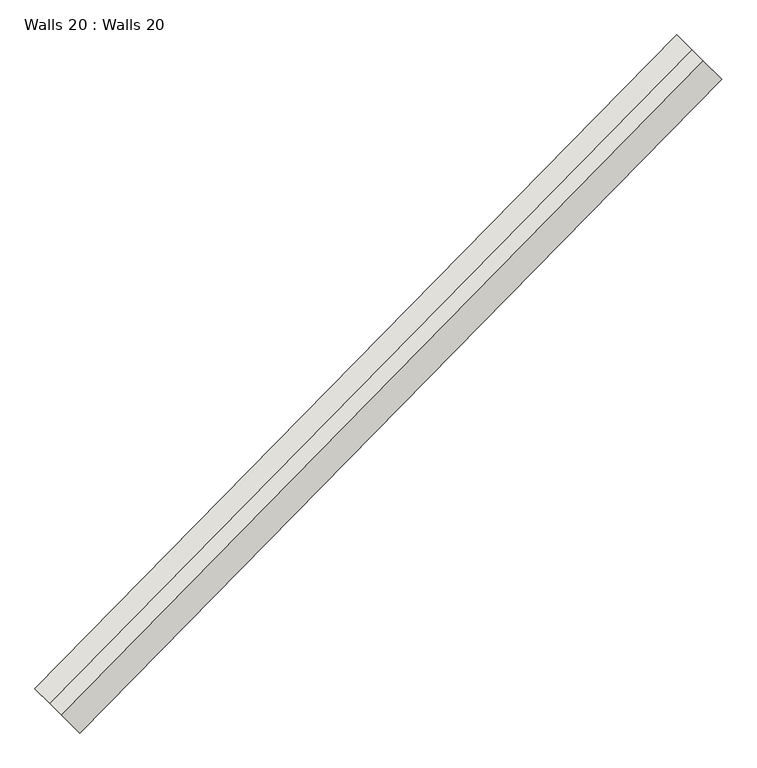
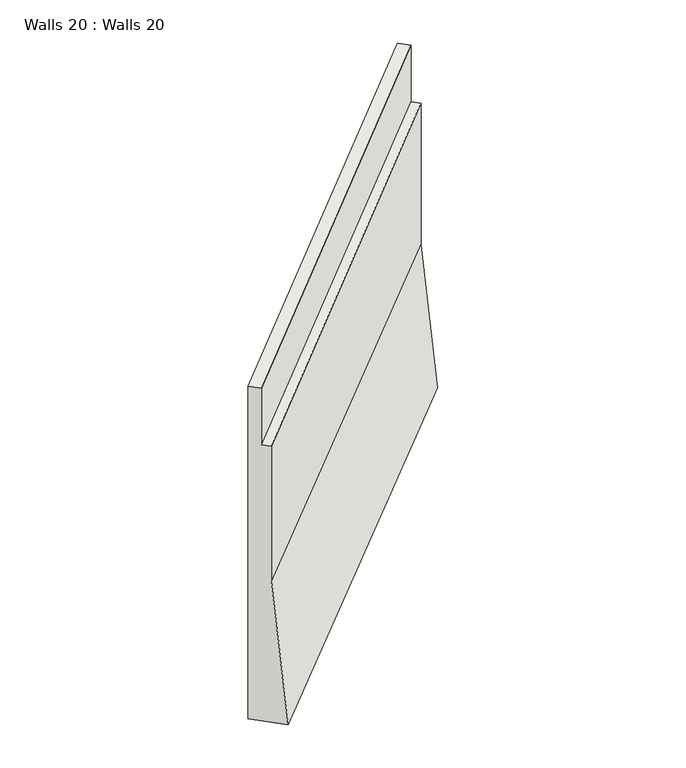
"""IFC4 building model written with IfcOpenShell, lengths in millimetres: wall geometry, Walls 20 : Walls 20."""

from ifc_helpers import new_model, si_unit, origin, place, context, project, spatial, faceted_brep, source, transform, mapped, element, save


def walls_20_walls_20_f7bc3025(model_context):
    return source(origin(), model_context, "Body", "Brep", [
        faceted_brep([(-227414.7220295, -387082.1172092, 641430.0), (-227414.7220295, -387082.1172092, 635530.0), (-226986.5015496, -387502.3901204, 635530.0), (-227164.9280241, -387327.2751565, 638030.0), (-227164.9280241, -387327.2751565, 640430.0), (-227271.9825979, -387222.2074648, 640430.0), (-227271.9825979, -387222.2074648, 641430.0), (-221320.7825854, -380872.9383538, 641620.0), (-221178.0431537, -381013.0286094, 641620.0), (-221178.0431537, -381013.0286094, 640620.0), (-221070.98858, -381118.0963011, 640620.0), (-221070.98858, -381118.0963011, 638110.0), (-220892.5621054, -381293.211265, 635610.0), (-221320.7825854, -380872.9383538, 635610.0)], [[[0, 1, 2, 3, 4, 5, 6]], [[7, 8, 9, 10, 11, 12, 13]], [[13, 12, 2, 1]], [[12, 11, 3, 2]], [[11, 10, 4, 3]], [[10, 9, 5, 4]], [[9, 8, 6, 5]], [[8, 7, 0, 6]], [[7, 13, 1, 0]]]),
    ])


if __name__ == "__main__":
    model = new_model("IFC4")
    model_context = context("Model", 3, world=origin())
    ifc_project = project(units=[si_unit("LENGTHUNIT", "METRE", prefix="MILLI")], contexts=[model_context])
    site = spatial("IfcSite", under=ifc_project)
    building = spatial("IfcBuilding", under=site)
    placement = place(None, origin())
    walls_20_walls_20_shape = walls_20_walls_20_f7bc3025(model_context)
    element("IfcWall", 1, ObjectType="Walls 20 : Walls 20", at=placement, inside=building, context=model_context, shape_type="MappedRepresentation", body=[
        mapped(walls_20_walls_20_shape, transform((0.0, 0.0, 0.0), x_axis=(1.0, 0.0, 0.0), y_axis=(0.0, 1.0, 0.0), z_axis=(0.0, 0.0, 1.0))),
    ])
    save(model, "model.ifc")
